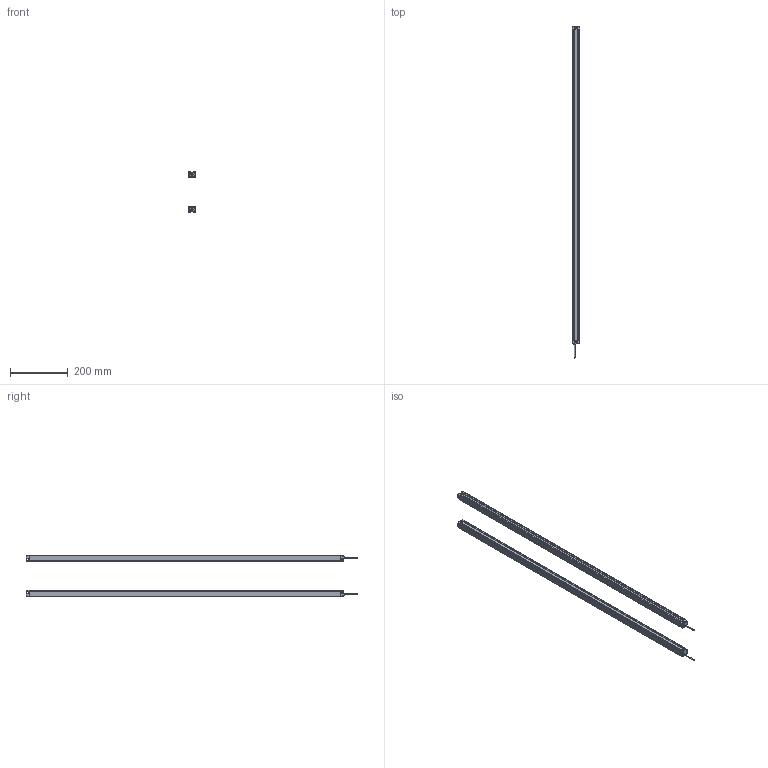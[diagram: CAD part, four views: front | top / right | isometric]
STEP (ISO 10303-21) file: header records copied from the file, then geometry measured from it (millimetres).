
FILE_DESCRIPTION (( 'STEP AP214' ), '1' );
FILE_NAME ('MTC5420.STEP', '2022-08-02T09:07:19', ( '' ), ( '' ), 'SwSTEP 2.0', 'SolidWorks 2018', '' );
FILE_SCHEMA (( 'AUTOMOTIVE_DESIGN' ));
Length unit declared in the file: millimetre
Products named in the file (5): P01^MTC; 噩砃P02^MTC; P02^MTC; MTC waike^MTC; MTC5420
Assembly tree (6 placements, depth 2):
  MTC5420
    MTC waike^MTC  x2
    P01^MTC  x2
    P02^MTC
    噩砃P02^MTC
Bounding box: 25 x 1152 x 141.4 mm (x, y, z)
Volume: 362420 mm3; surface area: 502774.5 mm2
Topology: 8 solids, 8 shells, 480 faces, 1396 edges, 924 vertices
Faces by surface type: plane 272, cylinder 208
Entity records: 10886 total; most frequent: DIRECTION 1881, CARTESIAN_POINT 1878, ORIENTED_EDGE 1846, EDGE_CURVE 923, AXIS2_PLACEMENT_3D 637, VERTEX_POINT 610, VECTOR 607, LINE 607
